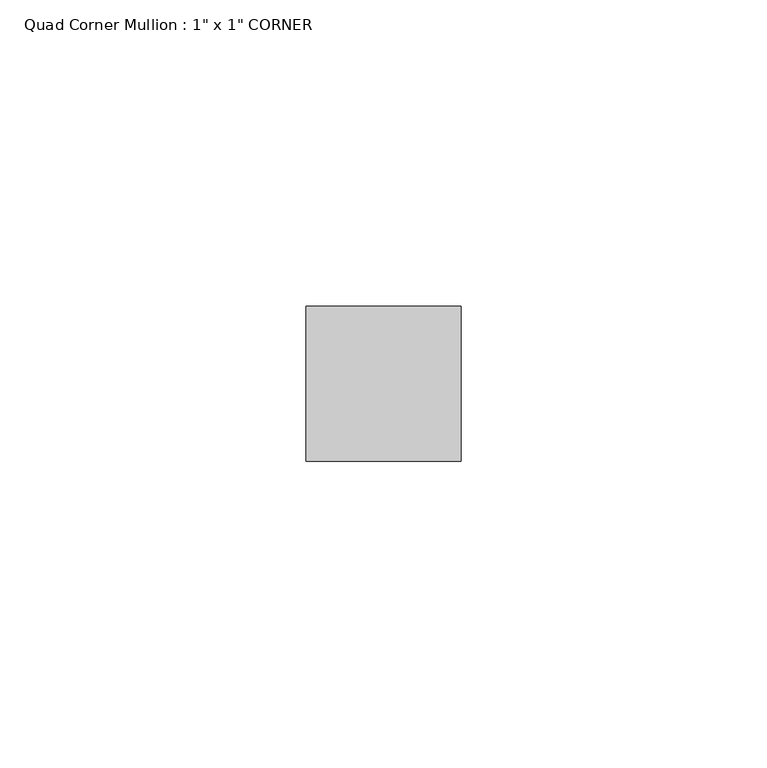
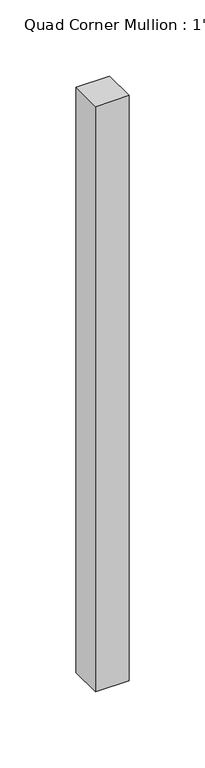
"""IFC4 building model written with IfcOpenShell, lengths in millimetres: member geometry."""

from ifc_helpers import new_model, si_unit, frame, origin, place, context, project, spatial, polyline, outline, extrude, source, transform, mapped, element, save


def member_b2bc4286(model_context):
    return source(origin(), model_context, "Body", "SweptSolid", [
        extrude(outline(polyline([(0.0, 25.4), (0.0, 0.0), (-25.4, 0.0), (-25.4, 25.4), (0.0, 25.4)])), frame((0.0, 0.0, -468.8810879), z_axis=(0.0, 0.0, 1.0), x_axis=(1.0, 0.0, 0.0)), (0.0, 0.0, 1.0), 468.8810879),
    ])


if __name__ == "__main__":
    model = new_model("IFC4")
    model_context = context("Model", 3, world=origin())
    ifc_project = project(units=[si_unit("LENGTHUNIT", "METRE", prefix="MILLI")], contexts=[model_context])
    site = spatial("IfcSite", under=ifc_project)
    building = spatial("IfcBuilding", under=site)
    placement = place(None, origin())
    member_shape = member_b2bc4286(model_context)
    element("IfcMember", 1, ObjectType="Quad Corner Mullion : 1\" x 1\" CORNER", at=placement, inside=building, context=model_context, shape_type="MappedRepresentation", body=[
        mapped(member_shape, transform((0.0, 0.0, 0.0), x_axis=(1.0, 0.0, 0.0), y_axis=(0.0, 1.0, 0.0), z_axis=(0.0, 0.0, 1.0))),
    ])
    save(model, "model.ifc")
